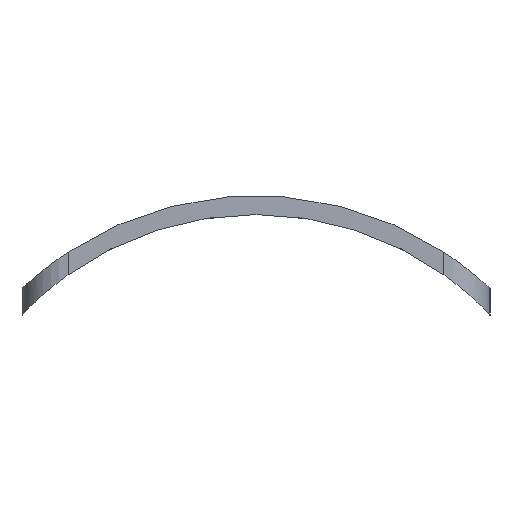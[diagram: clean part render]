
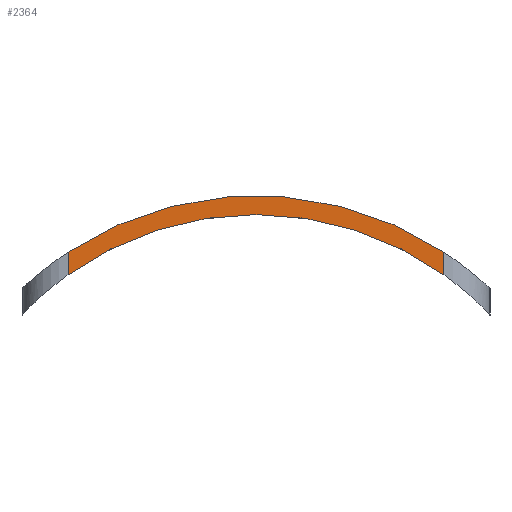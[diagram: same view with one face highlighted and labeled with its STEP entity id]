
A CAD part, left-side view. The second image highlights one B-rep face of the part: STEP entity #2364.
In plain terms, the highlighted planar face has unit normal (-1, 0, 0).
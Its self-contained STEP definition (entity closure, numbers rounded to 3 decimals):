
#21 = EDGE_CURVE('',#22,#24,#26,.T.);
#22 = VERTEX_POINT('',#23);
#23 = CARTESIAN_POINT('',(66.3,11.,16.703));
#24 = VERTEX_POINT('',#25);
#25 = CARTESIAN_POINT('',(66.3,-11.,16.703));
#26 = SURFACE_CURVE('',#27,(#32,#44),.PCURVE_S1.);
#27 = CIRCLE('',#28,20.);
#28 = AXIS2_PLACEMENT_3D('',#29,#30,#31);
#29 = CARTESIAN_POINT('',(66.3,0.,0.));
#30 = DIRECTION('',(1.,0.,0.));
#31 = DIRECTION('',(-0.,0.55,0.835));
#32 = PCURVE('',#33,#38);
#33 = CYLINDRICAL_SURFACE('',#34,20.);
#34 = AXIS2_PLACEMENT_3D('',#35,#36,#37);
#35 = CARTESIAN_POINT('',(65.,0.,0.));
#36 = DIRECTION('',(1.,0.,0.));
#37 = DIRECTION('',(-0.,0.,1.));
#38 = DEFINITIONAL_REPRESENTATION('',(#39),#43);
#39 = LINE('',#40,#41);
#40 = CARTESIAN_POINT('',(5.701,1.3));
#41 = VECTOR('',#42,1.);
#42 = DIRECTION('',(1.,0.));
#43 = ( GEOMETRIC_REPRESENTATION_CONTEXT(2) 
PARAMETRIC_REPRESENTATION_CONTEXT() REPRESENTATION_CONTEXT('2D SPACE',''
  ) );
#44 = PCURVE('',#45,#50);
#45 = PLANE('',#46);
#46 = AXIS2_PLACEMENT_3D('',#47,#48,#49);
#47 = CARTESIAN_POINT('',(66.3,-13.7,5.));
#48 = DIRECTION('',(1.,0.,0.));
#49 = DIRECTION('',(0.,0.,1.));
#50 = DEFINITIONAL_REPRESENTATION('',(#51),#55);
#51 = CIRCLE('',#52,20.);
#52 = AXIS2_PLACEMENT_2D('',#53,#54);
#53 = CARTESIAN_POINT('',(-5.,-13.7));
#54 = DIRECTION('',(0.835,-0.55));
#55 = ( GEOMETRIC_REPRESENTATION_CONTEXT(2) 
PARAMETRIC_REPRESENTATION_CONTEXT() REPRESENTATION_CONTEXT('2D SPACE',''
  ) );
#131 = CYLINDRICAL_SURFACE('',#132,2.7);
#132 = AXIS2_PLACEMENT_3D('',#133,#134,#135);
#133 = CARTESIAN_POINT('',(69.,-11.,5.));
#134 = DIRECTION('',(0.,0.,1.));
#135 = DIRECTION('',(-1.,-0.,0.));
#559 = CYLINDRICAL_SURFACE('',#560,2.7);
#560 = AXIS2_PLACEMENT_3D('',#561,#562,#563);
#561 = CARTESIAN_POINT('',(69.,11.,5.));
#562 = DIRECTION('',(0.,0.,1.));
#563 = DIRECTION('',(-1.,-0.,0.));
#603 = EDGE_CURVE('',#604,#22,#606,.T.);
#604 = VERTEX_POINT('',#605);
#605 = CARTESIAN_POINT('',(66.3,11.,15.369));
#606 = SURFACE_CURVE('',#607,(#611,#618),.PCURVE_S1.);
#607 = LINE('',#608,#609);
#608 = CARTESIAN_POINT('',(66.3,11.,5.));
#609 = VECTOR('',#610,1.);
#610 = DIRECTION('',(0.,0.,1.));
#611 = PCURVE('',#559,#612);
#612 = DEFINITIONAL_REPRESENTATION('',(#613),#617);
#613 = LINE('',#614,#615);
#614 = CARTESIAN_POINT('',(-0.,0.));
#615 = VECTOR('',#616,1.);
#616 = DIRECTION('',(-0.,1.));
#617 = ( GEOMETRIC_REPRESENTATION_CONTEXT(2) 
PARAMETRIC_REPRESENTATION_CONTEXT() REPRESENTATION_CONTEXT('2D SPACE',''
  ) );
#618 = PCURVE('',#45,#619);
#619 = DEFINITIONAL_REPRESENTATION('',(#620),#624);
#620 = LINE('',#621,#622);
#621 = CARTESIAN_POINT('',(0.,-24.7));
#622 = VECTOR('',#623,1.);
#623 = DIRECTION('',(1.,0.));
#624 = ( GEOMETRIC_REPRESENTATION_CONTEXT(2) 
PARAMETRIC_REPRESENTATION_CONTEXT() REPRESENTATION_CONTEXT('2D SPACE',''
  ) );
#700 = CYLINDRICAL_SURFACE('',#701,18.9);
#701 = AXIS2_PLACEMENT_3D('',#702,#703,#704);
#702 = CARTESIAN_POINT('',(64.,0.,0.));
#703 = DIRECTION('',(1.,0.,0.));
#704 = DIRECTION('',(-0.,0.,1.));
#1085 = EDGE_CURVE('',#604,#1086,#1088,.T.);
#1086 = VERTEX_POINT('',#1087);
#1087 = CARTESIAN_POINT('',(66.3,-11.,15.369));
#1088 = SURFACE_CURVE('',#1089,(#1094,#1101),.PCURVE_S1.);
#1089 = CIRCLE('',#1090,18.9);
#1090 = AXIS2_PLACEMENT_3D('',#1091,#1092,#1093);
#1091 = CARTESIAN_POINT('',(66.3,0.,0.));
#1092 = DIRECTION('',(1.,0.,0.));
#1093 = DIRECTION('',(-0.,0.582,0.813));
#1094 = PCURVE('',#700,#1095);
#1095 = DEFINITIONAL_REPRESENTATION('',(#1096),#1100);
#1096 = LINE('',#1097,#1098);
#1097 = CARTESIAN_POINT('',(5.662,2.3));
#1098 = VECTOR('',#1099,1.);
#1099 = DIRECTION('',(1.,0.));
#1100 = ( GEOMETRIC_REPRESENTATION_CONTEXT(2) 
PARAMETRIC_REPRESENTATION_CONTEXT() REPRESENTATION_CONTEXT('2D SPACE',''
  ) );
#1101 = PCURVE('',#45,#1102);
#1102 = DEFINITIONAL_REPRESENTATION('',(#1103),#1107);
#1103 = CIRCLE('',#1104,18.9);
#1104 = AXIS2_PLACEMENT_2D('',#1105,#1106);
#1105 = CARTESIAN_POINT('',(-5.,-13.7));
#1106 = DIRECTION('',(0.813,-0.582));
#1107 = ( GEOMETRIC_REPRESENTATION_CONTEXT(2) 
PARAMETRIC_REPRESENTATION_CONTEXT() REPRESENTATION_CONTEXT('2D SPACE',''
  ) );
#2341 = EDGE_CURVE('',#1086,#24,#2342,.T.);
#2342 = SURFACE_CURVE('',#2343,(#2347,#2354),.PCURVE_S1.);
#2343 = LINE('',#2344,#2345);
#2344 = CARTESIAN_POINT('',(66.3,-11.,5.));
#2345 = VECTOR('',#2346,1.);
#2346 = DIRECTION('',(0.,0.,1.));
#2347 = PCURVE('',#131,#2348);
#2348 = DEFINITIONAL_REPRESENTATION('',(#2349),#2353);
#2349 = LINE('',#2350,#2351);
#2350 = CARTESIAN_POINT('',(0.,0.));
#2351 = VECTOR('',#2352,1.);
#2352 = DIRECTION('',(0.,1.));
#2353 = ( GEOMETRIC_REPRESENTATION_CONTEXT(2) 
PARAMETRIC_REPRESENTATION_CONTEXT() REPRESENTATION_CONTEXT('2D SPACE',''
  ) );
#2354 = PCURVE('',#45,#2355);
#2355 = DEFINITIONAL_REPRESENTATION('',(#2356),#2360);
#2356 = LINE('',#2357,#2358);
#2357 = CARTESIAN_POINT('',(0.,-2.7));
#2358 = VECTOR('',#2359,1.);
#2359 = DIRECTION('',(1.,0.));
#2360 = ( GEOMETRIC_REPRESENTATION_CONTEXT(2) 
PARAMETRIC_REPRESENTATION_CONTEXT() REPRESENTATION_CONTEXT('2D SPACE',''
  ) );
#2364 = ADVANCED_FACE('',(#2365),#45,.F.);
#2365 = FACE_BOUND('',#2366,.F.);
#2366 = EDGE_LOOP('',(#2367,#2368,#2369,#2370));
#2367 = ORIENTED_EDGE('',*,*,#21,.T.);
#2368 = ORIENTED_EDGE('',*,*,#2341,.F.);
#2369 = ORIENTED_EDGE('',*,*,#1085,.F.);
#2370 = ORIENTED_EDGE('',*,*,#603,.T.);
